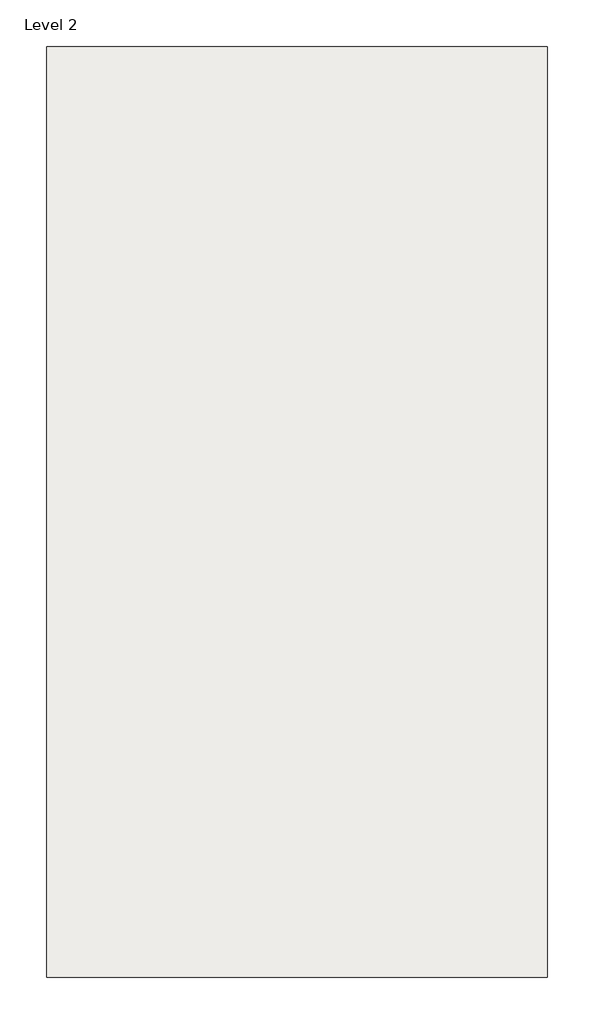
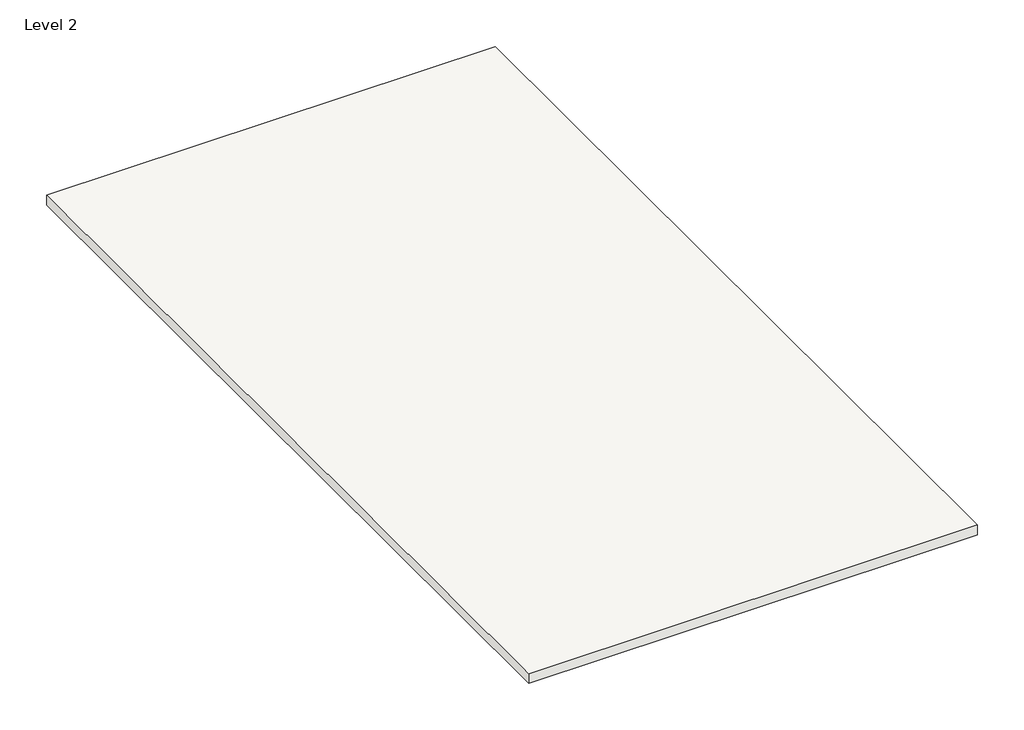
# One storey: 1 slab.
"""IFC4 building model written with IfcOpenShell, lengths in millimetres."""

from ifc_helpers import new_model, si_unit, frame, origin, place, context, project, spatial, polyline, outline, extrude, element, save

model = new_model("IFC4")

# Units and contexts
model_context = context("Model", 3, world=origin())
ifc_project = project(units=[si_unit("LENGTHUNIT", "METRE", prefix="MILLI")], contexts=[model_context])

# Site, building, storey
site = spatial("IfcSite", under=ifc_project)
building = spatial("IfcBuilding", under=site)
storey = spatial("IfcBuildingStorey", under=building, Name="Level 2", Elevation=4572.0)

# Slab
placement = place(None, origin())
element("IfcSlab", 1, ObjectType="Wooden Roof", at=placement, inside=storey, context=model_context, shape_type="SweptSolid", body=[
    extrude(outline(polyline([(-13972.6592687, 12189.5972731), (-7399.2436437, 12189.5972731), (-7399.2436437, -36.8183519), (-13972.6592687, -36.8183519), (-13972.6592687, 12189.5972731)])), frame((0.0, 0.0, 4419.6), z_axis=(0.0, 0.0, 1.0), x_axis=(1.0, 0.0, 0.0)), (0.0, 0.0, 1.0), 152.4),
])

save(model, "model.ifc")
